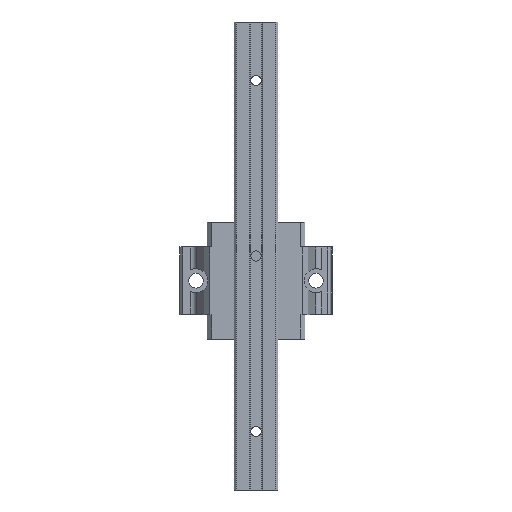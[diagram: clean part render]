
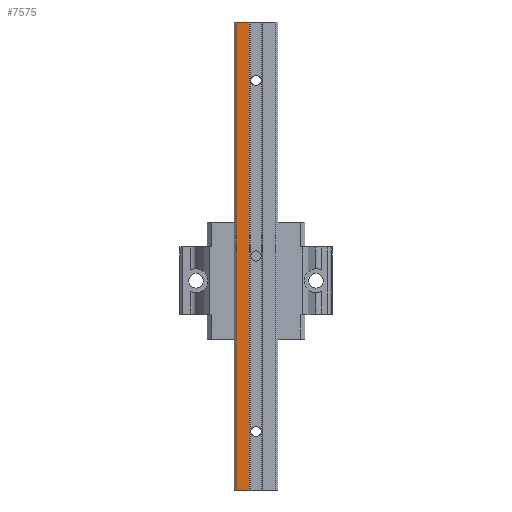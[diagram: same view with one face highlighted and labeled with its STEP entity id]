
A CAD part, front view. The second image highlights one B-rep face of the part: STEP entity #7575.
In plain terms, the highlighted planar face has unit normal (0, -1, 0).
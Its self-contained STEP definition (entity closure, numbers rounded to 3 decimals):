
#6532=DIRECTION('',(1.,0.,0.));
#6533=VECTOR('',#6532,4.45);
#6534=CARTESIAN_POINT('',(-6.8,-24.,-60.));
#6535=LINE('',#6534,#6533);
#6725=DIRECTION('',(1.,0.,0.));
#6726=VECTOR('',#6725,4.45);
#6727=CARTESIAN_POINT('',(-6.8,-24.,100.));
#6728=LINE('',#6727,#6726);
#6729=DIRECTION('',(0.,0.,1.));
#6730=VECTOR('',#6729,160.);
#6731=CARTESIAN_POINT('',(-6.8,-24.,-60.));
#6732=LINE('',#6731,#6730);
#6733=DIRECTION('',(0.,0.,1.));
#6734=VECTOR('',#6733,160.);
#6735=CARTESIAN_POINT('',(-2.35,-24.,-60.));
#6736=LINE('',#6735,#6734);
#6971=CARTESIAN_POINT('',(-2.35,-24.,100.));
#6972=VERTEX_POINT('',#6971);
#6973=CARTESIAN_POINT('',(-6.8,-24.,100.));
#6974=VERTEX_POINT('',#6973);
#7057=CARTESIAN_POINT('',(-6.8,-24.,-60.));
#7058=VERTEX_POINT('',#7057);
#7059=CARTESIAN_POINT('',(-2.35,-24.,-60.));
#7060=VERTEX_POINT('',#7059);
#7563=CARTESIAN_POINT('',(-2.35,-24.,50.));
#7564=DIRECTION('',(0.,-1.,0.));
#7565=DIRECTION('',(-1.,0.,0.));
#7566=AXIS2_PLACEMENT_3D('',#7563,#7564,#7565);
#7567=PLANE('',#7566);
#7568=ORIENTED_EDGE('',*,*,#7179,.T.);
#7570=ORIENTED_EDGE('',*,*,#7569,.F.);
#7571=ORIENTED_EDGE('',*,*,#7285,.F.);
#7572=ORIENTED_EDGE('',*,*,#7556,.T.);
#7573=EDGE_LOOP('',(#7568,#7570,#7571,#7572));
#7574=FACE_OUTER_BOUND('',#7573,.F.);
#7575=ADVANCED_FACE('',(#7574),#7567,.T.);
#7179=EDGE_CURVE('',#6974,#6972,#6728,.T.);
#7285=EDGE_CURVE('',#7058,#7060,#6535,.T.);
#7556=EDGE_CURVE('',#7058,#6974,#6732,.T.);
#7569=EDGE_CURVE('',#7060,#6972,#6736,.T.);
